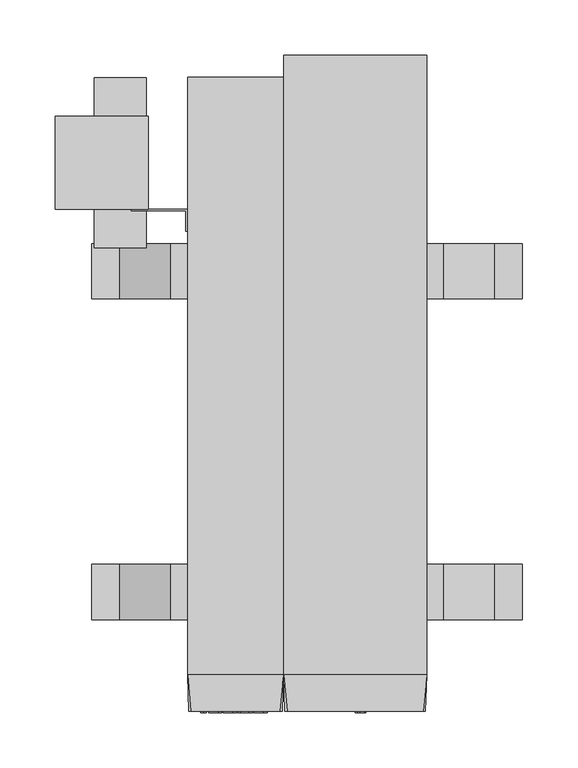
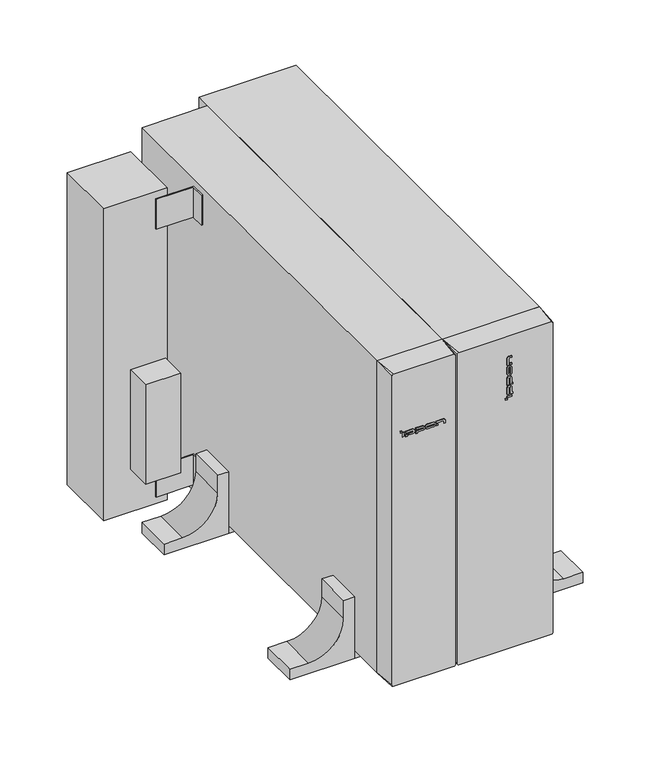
"""IFC4 building model written with IfcOpenShell, lengths in millimetres: proxy geometry, IPPON_ИБП_Innova RT II_60000_10000ВА_Вертикальный : Innova TR II 6000 ВА."""

from ifc_helpers import new_model, si_unit, point, frame, frame_2d, origin, origin_with_axes, place, context, project, spatial, polyline, circle_curve, trimmed, segment, composite_curve, outline, extrude, source, transform, mapped, element, save
from ifc_brep_helpers import plane_surface, spline_surface, advanced_brep


def electrical_equipment_9dc947d1(model_context):
    return source(origin(), model_context, "Body", "SolidModel", [
        extrude(outline(polyline([(-93.95, 454.0), (-43.25, 454.0), (-43.25, 434.0), (-44.75, 434.0), (-44.75, 452.5), (-93.95, 452.5), (-93.95, 454.0)])), frame((0.0, 0.0, 396.0), z_axis=(0.0, 0.0, 1.0), x_axis=(1.0, 0.0, 0.0)), (0.0, 0.0, 1.0), 42.0),
        extrude(outline(polyline([(-43.25, 454.0), (-43.25, 434.0), (-44.75, 434.0), (-44.75, 452.5), (-93.95, 452.5), (-93.95, 454.0), (-43.25, 454.0)])), frame((0.0, 0.0, 20.0), z_axis=(0.0, 0.0, 1.0), x_axis=(1.0, 0.0, 0.0)), (0.0, 0.0, 1.0), 42.0),
        extrude(outline(polyline([(-78.75, 454.0), (-162.75, 454.0), (-162.75, 538.0), (-78.75, 538.0), (-78.75, 454.0)])), frame((0.0, 0.0, 10.0), z_axis=(0.0, 0.0, 1.0), x_axis=(1.0, 0.0, 0.0)), (0.0, 0.0, 1.0), 438.0),
        extrude(outline(polyline([(-80.75, 419.0), (-127.75, 419.0), (-127.75, 573.0), (-80.75, 573.0), (-80.75, 419.0)])), frame((0.0, 0.0, 70.0), z_axis=(0.0, 0.0, 1.0), x_axis=(1.0, 0.0, 0.0)), (0.0, 0.0, 1.0), 140.0),
        extrude(outline(polyline([(110.55, -1.0), (108.25, -1.0), (108.25, 0.0), (110.55, 0.0), (110.55, -1.0)])), frame((0.0, 0.0, 360.0748292), z_axis=(0.0, 0.0, 1.0), x_axis=(1.0, 0.0, 0.0)), (0.0, 0.0, 1.0), 2.0),
        extrude(outline(polyline([(116.55, -1.0), (114.3231769, -1.0), (114.3231769, 0.0), (116.55, 0.0), (116.55, -1.0)])), frame((0.0, 0.0, 407.8501899), z_axis=(0.0, 0.0, 1.0), x_axis=(1.0, 0.0, 0.0)), (0.0, 0.0, 1.0), 2.0),
        extrude(outline(polyline([(116.55, -1.0), (110.55, -1.0), (110.55, 0.0), (116.55, 0.0), (116.55, -1.0)])), frame((0.0, 0.0, 362.7633101), z_axis=(0.0, 0.0, 1.0), x_axis=(1.0, 0.0, 0.0)), (0.0, 0.0, 1.0), 2.0447674),
        extrude(outline(composite_curve([segment(polyline([(367.0225317, 112.81244), (376.2542889, 112.81244)]), True, "CONTINUOUS"), segment(trimmed(circle_curve(frame_2d((376.2542889, 113.6689193)), 0.8564793), [point((376.2542889, 112.81244))], [point((376.2542889, 114.5253986))], True, "CARTESIAN"), True, "CONTINUOUS"), segment(polyline([(376.2542889, 114.5253986), (367.0225317, 114.5253986), (367.0225317, 118.0159032), (369.0225317, 118.0159032), (369.0225317, 116.55), (376.0980389, 116.55)]), True, "CONTINUOUS"), segment(trimmed(circle_curve(frame_2d((376.0980389, 113.55)), 3.0), [point((376.0980389, 116.55))], [point((376.0980389, 110.55))], False, "CARTESIAN"), True, "CONTINUOUS"), segment(polyline([(376.0980389, 110.55), (367.0225317, 110.55), (367.0225317, 112.81244)]), True, "CONTINUOUS")], self_intersect=False)), frame((0.0, -1.0, 0.0), z_axis=(0.0, 1.0, 0.0), x_axis=(0.0, 0.0, 1.0)), (0.0, 0.0, 1.0), 1.0),
        extrude(outline(composite_curve([segment(polyline([(380.2295334, 112.81244), (389.4612907, 112.81244)]), True, "CONTINUOUS"), segment(trimmed(circle_curve(frame_2d((389.4612907, 113.6689193)), 0.8564793), [point((389.4612907, 112.81244))], [point((389.4612907, 114.5253986))], True, "CARTESIAN"), True, "CONTINUOUS"), segment(polyline([(389.4612907, 114.5253986), (380.2295334, 114.5253986), (380.2295334, 118.0159032), (382.2295334, 118.0159032), (382.2295334, 116.55), (389.3050407, 116.55)]), True, "CONTINUOUS"), segment(trimmed(circle_curve(frame_2d((389.3050407, 113.55)), 3.0), [point((389.3050407, 116.55))], [point((389.3050407, 110.55))], False, "CARTESIAN"), True, "CONTINUOUS"), segment(polyline([(389.3050407, 110.55), (380.2295334, 110.55), (380.2295334, 112.81244)]), True, "CONTINUOUS")], self_intersect=False)), frame((0.0, -1.0, 0.0), z_axis=(0.0, 1.0, 0.0), x_axis=(0.0, 0.0, 1.0)), (0.0, 0.0, 1.0), 1.0),
        extrude(outline(composite_curve([segment(trimmed(circle_curve(frame_2d((403.8052996, 113.55)), 3.0), [point((403.8052996, 116.55))], [point((403.8052996, 110.55))], False, "CARTESIAN"), True, "CONTINUOUS"), segment(polyline([(403.8052996, 110.55), (396.2052996, 110.55)]), True, "CONTINUOUS"), segment(trimmed(circle_curve(frame_2d((396.2052996, 113.55)), 3.0), [point((396.2052996, 110.55))], [point((396.2052996, 116.55))], False, "CARTESIAN"), True, "CONTINUOUS"), segment(polyline([(396.2052996, 116.55), (403.8052996, 116.55)]), True, "CONTINUOUS")], self_intersect=False), holes=[composite_curve([segment(polyline([(403.9615496, 114.5253986), (396.0490496, 114.5253986)]), True, "CONTINUOUS"), segment(trimmed(circle_curve(frame_2d((396.0490496, 113.6689193)), 0.8564793), [point((396.0490496, 114.5253986))], [point((396.0490496, 112.81244))], True, "CARTESIAN"), True, "CONTINUOUS"), segment(polyline([(396.0490496, 112.81244), (403.9615496, 112.81244)]), True, "CONTINUOUS"), segment(trimmed(circle_curve(frame_2d((403.9615496, 113.6689193)), 0.8564793), [point((403.9615496, 112.81244))], [point((403.9615496, 114.5253986))], True, "CARTESIAN"), True, "CONTINUOUS")], self_intersect=False)]), frame((0.0, -1.0, 0.0), z_axis=(0.0, 1.0, 0.0), x_axis=(0.0, 0.0, 1.0)), (0.0, 0.0, 1.0), 1.0),
        extrude(outline(composite_curve([segment(polyline([(407.8501899, 112.81244), (417.0819472, 112.81244)]), True, "CONTINUOUS"), segment(trimmed(circle_curve(frame_2d((417.0819472, 113.6689193)), 0.8564793), [point((417.0819472, 112.81244))], [point((417.9384265, 113.6689193))], True, "CARTESIAN"), True, "CONTINUOUS"), segment(polyline([(417.9384265, 113.6689193), (417.9384265, 116.55), (419.8784346, 116.55), (419.8784346, 113.0195835)]), True, "CONTINUOUS"), segment(trimmed(circle_curve(frame_2d((416.9256972, 113.55)), 3.0), [point((419.8784346, 113.0195835))], [point((416.9256972, 110.55))], False, "CARTESIAN"), True, "CONTINUOUS"), segment(polyline([(416.9256972, 110.55), (407.8501899, 110.55), (407.8501899, 112.81244)]), True, "CONTINUOUS")], self_intersect=False)), frame((0.0, -1.0, 0.0), z_axis=(0.0, 1.0, 0.0), x_axis=(0.0, 0.0, 1.0)), (0.0, 0.0, 1.0), 1.0),
        extrude(outline(polyline([(-29.1718133, -1.0), (-31.1718133, -1.0), (-31.1718133, 0.0), (-29.1718133, 0.0), (-29.1718133, -1.0)])), frame((0.0, 0.0, 362.5595835), z_axis=(0.0, 0.0, 1.0), x_axis=(1.0, 0.0, 0.0)), (0.0, 0.0, 1.0), 2.3),
        extrude(outline(polyline([(18.6035474, -1.0), (16.6035474, -1.0), (16.6035474, 0.0), (18.6035474, 0.0), (18.6035474, -1.0)])), frame((0.0, 0.0, 356.5595835), z_axis=(0.0, 0.0, 1.0), x_axis=(1.0, 0.0, 0.0)), (0.0, 0.0, 1.0), 2.2268231),
        extrude(outline(polyline([(-26.438565, -1.0), (-28.4833324, -1.0), (-28.4833324, 0.0), (-26.438565, 0.0), (-26.438565, -1.0)])), frame((0.0, 0.0, 356.5595835), z_axis=(0.0, 0.0, 1.0), x_axis=(1.0, 0.0, 0.0)), (0.0, 0.0, 1.0), 6.0),
        extrude(outline(composite_curve([segment(polyline([(360.2971435, -24.2241109), (360.2971435, -14.9923536)]), True, "CONTINUOUS"), segment(trimmed(circle_curve(frame_2d((359.4406642, -14.9923536)), 0.8564793), [point((360.2971435, -14.9923536))], [point((358.5841849, -14.9923536))], True, "CARTESIAN"), True, "CONTINUOUS"), segment(polyline([(358.5841849, -14.9923536), (358.5841849, -24.2241109), (355.0936803, -24.2241109), (355.0936803, -22.2241109), (356.5595835, -22.2241109), (356.5595835, -15.1486036)]), True, "CONTINUOUS"), segment(trimmed(circle_curve(frame_2d((359.5595835, -15.1486036)), 3.0), [point((356.5595835, -15.1486036))], [point((362.5595835, -15.1486036))], False, "CARTESIAN"), True, "CONTINUOUS"), segment(polyline([(362.5595835, -15.1486036), (362.5595835, -24.2241109), (360.2971435, -24.2241109)]), True, "CONTINUOUS")], self_intersect=False)), frame((0.0, -1.0, 0.0), z_axis=(0.0, 1.0, 0.0), x_axis=(0.0, 0.0, 1.0)), (0.0, 0.0, 1.0), 1.0),
        extrude(outline(composite_curve([segment(polyline([(360.2971435, -11.0171091), (360.2971435, -1.7853518)]), True, "CONTINUOUS"), segment(trimmed(circle_curve(frame_2d((359.4406642, -1.7853518)), 0.8564793), [point((360.2971435, -1.7853518))], [point((358.5841849, -1.7853518))], True, "CARTESIAN"), True, "CONTINUOUS"), segment(polyline([(358.5841849, -1.7853518), (358.5841849, -11.0171091), (355.0936803, -11.0171091), (355.0936803, -9.0171091), (356.5595835, -9.0171091), (356.5595835, -1.9416018)]), True, "CONTINUOUS"), segment(trimmed(circle_curve(frame_2d((359.5595835, -1.9416018)), 3.0), [point((356.5595835, -1.9416018))], [point((362.5595835, -1.9416018))], False, "CARTESIAN"), True, "CONTINUOUS"), segment(polyline([(362.5595835, -1.9416018), (362.5595835, -11.0171091), (360.2971435, -11.0171091)]), True, "CONTINUOUS")], self_intersect=False)), frame((0.0, -1.0, 0.0), z_axis=(0.0, 1.0, 0.0), x_axis=(0.0, 0.0, 1.0)), (0.0, 0.0, 1.0), 1.0),
        extrude(outline(composite_curve([segment(trimmed(circle_curve(frame_2d((359.5595835, 12.558657)), 3.0), [point((356.5595835, 12.558657))], [point((362.5595835, 12.558657))], False, "CARTESIAN"), True, "CONTINUOUS"), segment(polyline([(362.5595835, 12.558657), (362.5595835, 4.958657)]), True, "CONTINUOUS"), segment(trimmed(circle_curve(frame_2d((359.5595835, 4.958657)), 3.0), [point((362.5595835, 4.958657))], [point((356.5595835, 4.958657))], False, "CARTESIAN"), True, "CONTINUOUS"), segment(polyline([(356.5595835, 4.958657), (356.5595835, 12.558657)]), True, "CONTINUOUS")], self_intersect=False), holes=[composite_curve([segment(polyline([(358.5841849, 12.714907), (358.5841849, 4.802407)]), True, "CONTINUOUS"), segment(trimmed(circle_curve(frame_2d((359.4406642, 4.802407)), 0.8564793), [point((358.5841849, 4.802407))], [point((360.2971435, 4.802407))], True, "CARTESIAN"), True, "CONTINUOUS"), segment(polyline([(360.2971435, 4.802407), (360.2971435, 12.714907)]), True, "CONTINUOUS"), segment(trimmed(circle_curve(frame_2d((359.4406642, 12.714907)), 0.8564793), [point((360.2971435, 12.714907))], [point((358.5841849, 12.714907))], True, "CARTESIAN"), True, "CONTINUOUS")], self_intersect=False)]), frame((0.0, -1.0, 0.0), z_axis=(0.0, 1.0, 0.0), x_axis=(0.0, 0.0, 1.0)), (0.0, 0.0, 1.0), 1.0),
        extrude(outline(composite_curve([segment(polyline([(360.2971435, 16.6035474), (360.2971435, 25.8353046)]), True, "CONTINUOUS"), segment(trimmed(circle_curve(frame_2d((359.4406642, 25.8353046)), 0.8564793), [point((360.2971435, 25.8353046))], [point((359.4406642, 26.6917839))], True, "CARTESIAN"), True, "CONTINUOUS"), segment(polyline([(359.4406642, 26.6917839), (356.5595835, 26.6917839), (356.5595835, 28.6317921), (360.09, 28.6317921)]), True, "CONTINUOUS"), segment(trimmed(circle_curve(frame_2d((359.5595835, 25.6790546)), 3.0), [point((360.09, 28.6317921))], [point((362.5595835, 25.6790546))], False, "CARTESIAN"), True, "CONTINUOUS"), segment(polyline([(362.5595835, 25.6790546), (362.5595835, 16.6035474), (360.2971435, 16.6035474)]), True, "CONTINUOUS")], self_intersect=False)), frame((0.0, -1.0, 0.0), z_axis=(0.0, 1.0, 0.0), x_axis=(0.0, 0.0, 1.0)), (0.0, 0.0, 1.0), 1.0),
        advanced_brep(
        [(169.75, 0.0, 10.0), (171.75, 0.0, 12.0), (171.75, 0.0, 446.0), (169.75, 0.0, 448.0), (46.75, 0.0, 448.0), (44.75, 0.0, 446.0), (44.75, 0.0, 12.0), (46.75, 0.0, 10.0), (172.75, 33.0, 10.0), (43.75, 33.0, 10.0), (43.75, 33.0, 448.0), (172.75, 33.0, 448.0)],
        [
            (0, 1, circle_curve(frame((169.75, 0.0, 12.0), z_axis=(0.0, -1.0, 0.0), x_axis=(-1.0, 0.0, 0.0)), 2.0)),
            (1, 2),
            (2, 3, circle_curve(frame((169.75, 0.0, 446.0), z_axis=(0.0, -1.0, 0.0), x_axis=(-1.0, 0.0, 0.0)), 2.0)),
            (3, 4),
            (4, 5, circle_curve(frame((46.75, 0.0, 446.0), z_axis=(0.0, -1.0, 0.0), x_axis=(-1.0, 0.0, 0.0)), 2.0)),
            (5, 6),
            (6, 7, circle_curve(frame((46.75, 0.0, 12.0), z_axis=(0.0, -1.0, 0.0), x_axis=(-1.0, 0.0, 0.0)), 2.0)),
            (7, 0),
            (8, 9),
            (9, 10),
            (10, 11),
            (11, 8),
            (0, 8),
            (8, 1),
            (7, 9),
            (6, 9),
            (5, 10),
            (4, 10),
            (3, 11),
            (2, 11),
        ],
        [
            plane_surface(frame((108.25, 0.0, 229.0), z_axis=(0.0, -1.0, 0.0), x_axis=(1.0, 0.0, 0.0))),
            plane_surface(frame((108.25, 33.0, 229.0), z_axis=(0.0, 1.0, 0.0), x_axis=(1.0, 0.0, 0.0))),
            spline_surface(2, 1, [[(172.75, 33.0, 10.0), (169.75, 0.0, 10.0)], [(172.75, 33.0, 10.0), (171.75, 0.0, 10.0)], [(172.75, 33.0, 10.0), (171.75, 0.0, 12.0)]], [3, 3], [2, 2], [0.0, 1.0], [0.0, 1.0], weights=[[1.0, 1.0], [0.7071067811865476, 0.7071067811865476], [1.0, 1.0]]),
            plane_surface(frame((108.25, 33.0, 10.0), z_axis=(0.0, 0.0, -1.0), x_axis=(1.0, 0.0, 0.0))),
            spline_surface(2, 1, [[(43.75, 33.0, 10.0), (44.75, 0.0, 12.0)], [(43.75, 33.0, 10.0), (44.75, 0.0, 10.0)], [(43.75, 33.0, 10.0), (46.75, 0.0, 10.0)]], [3, 3], [2, 2], [0.0, 1.0], [0.0, 1.0], weights=[[1.0, 1.0], [0.7071067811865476, 0.7071067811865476], [1.0, 1.0]]),
            plane_surface(frame((43.75, 33.0, 229.0), z_axis=(-0.9995411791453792, -0.030289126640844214, 0.0), x_axis=(0.0, 0.0, -1.0))),
            spline_surface(2, 1, [[(43.75, 33.0, 448.0), (46.75, 0.0, 448.0)], [(43.75, 33.0, 448.0), (44.75, 0.0, 448.0)], [(43.75, 33.0, 448.0), (44.75, 0.0, 446.0)]], [3, 3], [2, 2], [0.0, 1.0], [0.0, 1.0], weights=[[1.0, 1.0], [0.7071067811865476, 0.7071067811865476], [1.0, 1.0]]),
            plane_surface(frame((108.25, 33.0, 448.0), z_axis=(0.0, 0.0, 1.0), x_axis=(-1.0, 0.0, 0.0))),
            spline_surface(2, 1, [[(172.75, 33.0, 448.0), (171.75, 0.0, 446.0)], [(172.75, 33.0, 448.0), (171.75, 0.0, 448.0)], [(172.75, 33.0, 448.0), (169.75, 0.0, 448.0)]], [3, 3], [2, 2], [0.0, 1.0], [0.0, 1.0], weights=[[1.0, 1.0], [0.7071067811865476, 0.7071067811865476], [1.0, 1.0]]),
            plane_surface(frame((172.75, 33.0, 229.0), z_axis=(0.9995411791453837, -0.030289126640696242, 0.0), x_axis=(0.0, 0.0, 1.0))),
        ],
        [
            (0, [[1, 2, 3, 4, 5, 6, 7, 8]]),
            (1, [[9, 10, 11, 12]]),
            (2, [[-1, 13, 14]]),
            (3, [[-9, -13, -8, 15]]),
            (4, [[-7, 16, -15]]),
            (5, [[-10, -16, -6, 17]]),
            (6, [[-5, 18, -17]]),
            (7, [[-11, -18, -4, 19]]),
            (8, [[-3, 20, -19]]),
            (9, [[-12, -20, -2, -14]]),
        ],
    ),
        extrude(outline(polyline([(172.75, 33.0), (43.75, 33.0), (43.75, 593.0), (172.75, 593.0), (172.75, 33.0)])), frame((0.0, 0.0, 10.0), z_axis=(0.0, 0.0, 1.0), x_axis=(1.0, 0.0, 0.0)), (0.0, 0.0, 1.0), 438.0),
        advanced_brep(
        [(40.25, 0.0, 10.0), (42.25, 0.0, 12.0), (42.25, 0.0, 446.0), (40.25, 0.0, 448.0), (-40.25, 0.0, 448.0), (-42.25, 0.0, 446.0), (-42.25, 0.0, 12.0), (-40.25, 0.0, 10.0), (43.25, 33.0, 10.0), (-43.25, 33.0, 10.0), (-43.25, 33.0, 448.0), (43.25, 33.0, 448.0)],
        [
            (0, 1, circle_curve(frame((40.25, 0.0, 12.0), z_axis=(0.0, -1.0, 0.0), x_axis=(-1.0, 0.0, 0.0)), 2.0)),
            (1, 2),
            (2, 3, circle_curve(frame((40.25, 0.0, 446.0), z_axis=(0.0, -1.0, 0.0), x_axis=(-1.0, 0.0, 0.0)), 2.0)),
            (3, 4),
            (4, 5, circle_curve(frame((-40.25, 0.0, 446.0), z_axis=(0.0, -1.0, 0.0), x_axis=(-1.0, 0.0, 0.0)), 2.0)),
            (5, 6),
            (6, 7, circle_curve(frame((-40.25, 0.0, 12.0), z_axis=(0.0, -1.0, 0.0), x_axis=(-1.0, 0.0, 0.0)), 2.0)),
            (7, 0),
            (8, 9),
            (9, 10),
            (10, 11),
            (11, 8),
            (0, 8),
            (8, 1),
            (7, 9),
            (6, 9),
            (5, 10),
            (4, 10),
            (3, 11),
            (2, 11),
        ],
        [
            plane_surface(frame((0.0, 0.0, 229.0), z_axis=(0.0, -1.0, 0.0), x_axis=(1.0, 0.0, 0.0))),
            plane_surface(frame((0.0, 33.0, 229.0), z_axis=(0.0, 1.0, 0.0), x_axis=(1.0, 0.0, 0.0))),
            spline_surface(2, 1, [[(43.25, 33.0, 10.0), (40.25, 0.0, 10.0)], [(43.25, 33.0, 10.0), (42.25, 0.0, 10.0)], [(43.25, 33.0, 10.0), (42.25, 0.0, 12.0)]], [3, 3], [2, 2], [0.0, 1.0], [0.0, 1.0], weights=[[1.0, 1.0], [0.7071067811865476, 0.7071067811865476], [1.0, 1.0]]),
            plane_surface(frame((0.0, 33.0, 10.0), z_axis=(0.0, 0.0, -1.0), x_axis=(1.0, 0.0, 0.0))),
            spline_surface(2, 1, [[(-43.25, 33.0, 10.0), (-42.25, 0.0, 12.0)], [(-43.25, 33.0, 10.0), (-42.25, 0.0, 10.0)], [(-43.25, 33.0, 10.0), (-40.25, 0.0, 10.0)]], [3, 3], [2, 2], [0.0, 1.0], [0.0, 1.0], weights=[[1.0, 1.0], [0.7071067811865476, 0.7071067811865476], [1.0, 1.0]]),
            plane_surface(frame((-43.25, 33.0, 229.0), z_axis=(-0.9995411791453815, -0.030289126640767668, 0.0), x_axis=(0.0, 0.0, -1.0))),
            spline_surface(2, 1, [[(-43.25, 33.0, 448.0), (-40.25, 0.0, 448.0)], [(-43.25, 33.0, 448.0), (-42.25, 0.0, 448.0)], [(-43.25, 33.0, 448.0), (-42.25, 0.0, 446.0)]], [3, 3], [2, 2], [0.0, 1.0], [0.0, 1.0], weights=[[1.0, 1.0], [0.7071067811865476, 0.7071067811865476], [1.0, 1.0]]),
            plane_surface(frame((0.0, 33.0, 448.0), z_axis=(0.0, 0.0, 1.0), x_axis=(-1.0, 0.0, 0.0))),
            spline_surface(2, 1, [[(43.25, 33.0, 448.0), (42.25, 0.0, 446.0)], [(43.25, 33.0, 448.0), (42.25, 0.0, 448.0)], [(43.25, 33.0, 448.0), (40.25, 0.0, 448.0)]], [3, 3], [2, 2], [0.0, 1.0], [0.0, 1.0], weights=[[1.0, 1.0], [0.7071067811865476, 0.7071067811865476], [1.0, 1.0]]),
            plane_surface(frame((43.25, 33.0, 229.0), z_axis=(0.9995411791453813, -0.03028912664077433, 0.0), x_axis=(0.0, 0.0, 1.0))),
        ],
        [
            (0, [[1, 2, 3, 4, 5, 6, 7, 8]]),
            (1, [[9, 10, 11, 12]]),
            (2, [[-1, 13, 14]]),
            (3, [[-9, -13, -8, 15]]),
            (4, [[-7, 16, -15]]),
            (5, [[-10, -16, -6, 17]]),
            (6, [[-5, 18, -17]]),
            (7, [[-11, -18, -4, 19]]),
            (8, [[-3, 20, -19]]),
            (9, [[-12, -20, -2, -14]]),
        ],
    ),
        extrude(outline(polyline([(43.25, 33.0), (-43.25, 33.0), (-43.25, 573.0), (43.25, 573.0), (43.25, 33.0)])), frame((0.0, 0.0, 10.0), z_axis=(0.0, 0.0, 1.0), x_axis=(1.0, 0.0, 0.0)), (0.0, 0.0, 1.0), 438.0),
        extrude(outline(polyline([(172.75, 83.0), (-43.25, 83.0), (-43.25, 133.0), (172.75, 133.0), (172.75, 83.0)])), origin_with_axes(), (0.0, 0.0, 1.0), 10.0),
        extrude(outline(polyline([(-43.25, 423.0), (172.75, 423.0), (172.75, 373.0), (-43.25, 373.0), (-43.25, 423.0)])), origin_with_axes(), (0.0, 0.0, 1.0), 10.0),
        extrude(outline(composite_curve([segment(polyline([(86.5, -58.25), (61.5, -58.25)]), True, "CONTINUOUS"), segment(trimmed(circle_curve(frame_2d((61.5, -104.75)), 46.5), [point((61.5, -58.25))], [point((15.0, -104.75))], True, "CARTESIAN"), True, "CONTINUOUS"), segment(polyline([(15.0, -104.75), (15.0, -129.75), (0.0, -129.75), (0.0, -43.25), (86.5, -43.25), (86.5, -58.25)]), True, "CONTINUOUS")], self_intersect=False)), frame((0.0, 83.0, 0.0), z_axis=(0.0, 1.0, 0.0), x_axis=(0.0, 0.0, 1.0)), (0.0, 0.0, 1.0), 50.0),
        extrude(outline(composite_curve([segment(polyline([(86.5, -58.25), (61.5, -58.25)]), True, "CONTINUOUS"), segment(trimmed(circle_curve(frame_2d((61.5, -104.75)), 46.5), [point((61.5, -58.25))], [point((15.0, -104.75))], True, "CARTESIAN"), True, "CONTINUOUS"), segment(polyline([(15.0, -104.75), (15.0, -129.75), (0.0, -129.75), (0.0, -43.25), (86.5, -43.25), (86.5, -58.25)]), True, "CONTINUOUS")], self_intersect=False)), frame((0.0, 373.0, 0.0), z_axis=(0.0, 1.0, 0.0), x_axis=(0.0, 0.0, 1.0)), (0.0, 0.0, 1.0), 50.0),
        extrude(outline(composite_curve([segment(polyline([(0.0, 259.25), (15.0, 259.25), (15.0, 234.25)]), True, "CONTINUOUS"), segment(trimmed(circle_curve(frame_2d((61.5, 234.25)), 46.5), [point((15.0, 234.25))], [point((61.5, 187.75))], True, "CARTESIAN"), True, "CONTINUOUS"), segment(polyline([(61.5, 187.75), (86.5, 187.75), (86.5, 172.75), (0.0, 172.75), (0.0, 259.25)]), True, "CONTINUOUS")], self_intersect=False)), frame((0.0, 83.0, 0.0), z_axis=(0.0, 1.0, 0.0), x_axis=(0.0, 0.0, 1.0)), (0.0, 0.0, 1.0), 50.0),
        extrude(outline(composite_curve([segment(polyline([(0.0, 172.75), (0.0, 259.25), (15.0, 259.25), (15.0, 234.25)]), True, "CONTINUOUS"), segment(trimmed(circle_curve(frame_2d((61.5, 234.25)), 46.5), [point((15.0, 234.25))], [point((61.5, 187.75))], True, "CARTESIAN"), True, "CONTINUOUS"), segment(polyline([(61.5, 187.75), (86.5, 187.75), (86.5, 172.75), (0.0, 172.75)]), True, "CONTINUOUS")], self_intersect=False)), frame((0.0, 373.0, 0.0), z_axis=(0.0, 1.0, 0.0), x_axis=(0.0, 0.0, 1.0)), (0.0, 0.0, 1.0), 50.0),
    ])


if __name__ == "__main__":
    model = new_model("IFC4")
    model_context = context("Model", 3, world=origin())
    ifc_project = project(units=[si_unit("LENGTHUNIT", "METRE", prefix="MILLI")], contexts=[model_context])
    site = spatial("IfcSite", under=ifc_project)
    building = spatial("IfcBuilding", under=site)
    placement = place(None, origin())
    electrical_equipment_shape = electrical_equipment_9dc947d1(model_context)
    element("IfcBuildingElementProxy", 1, Name="IPPON_ИБП_Innova RT II_60000_10000ВА_Вертикальный : Innova TR II 6000 ВА", ObjectType="IPPON_ИБП_Innova RT II_60000_10000ВА_Вертикальный : Innova TR II 6000 ВА", at=placement, inside=building, context=model_context, shape_type="MappedRepresentation", body=[
        mapped(electrical_equipment_shape, transform((0.0, 0.0, 0.0), x_axis=(1.0, 0.0, 0.0), y_axis=(0.0, 1.0, 0.0), z_axis=(0.0, 0.0, 1.0))),
    ])
    save(model, "model.ifc")
